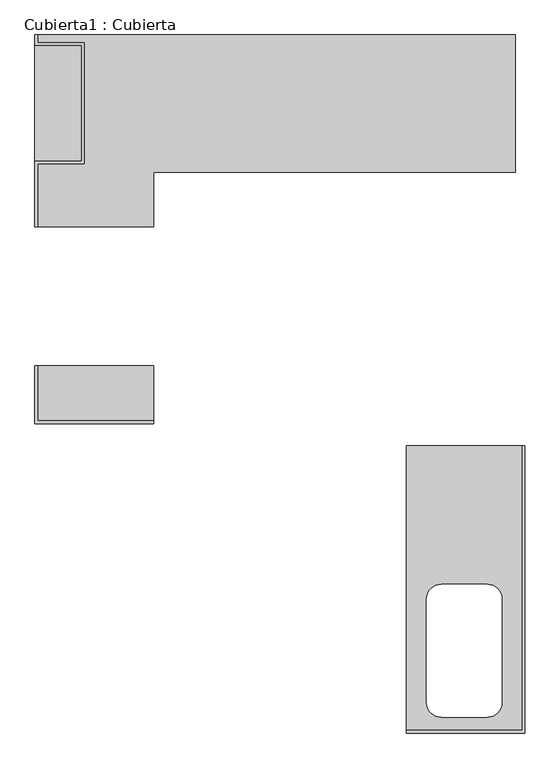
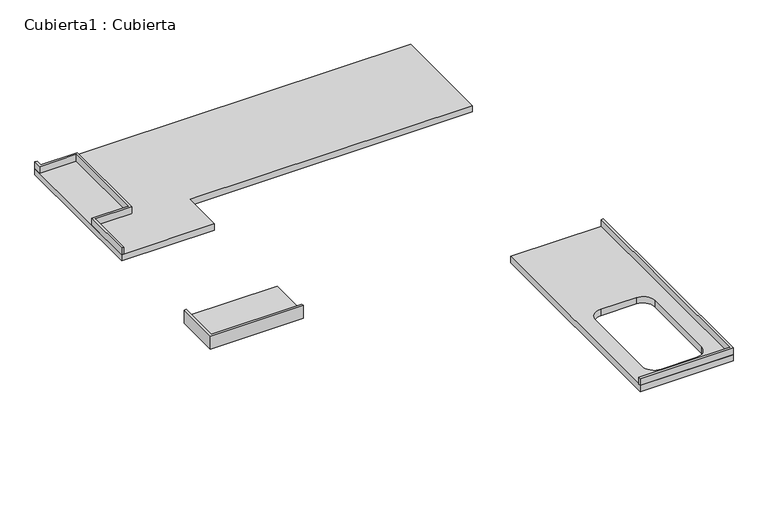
"""IFC4 building model written with IfcOpenShell, lengths in millimetres: furniture geometry, Cubierta1 : Cubierta."""

from ifc_helpers import new_model, si_unit, frame, origin, place, context, project, spatial, polyline, circle_curve, outline, extrude, faceted_brep, source, transform, mapped, element, save
from ifc_brep_helpers import plane_surface, revolved_surface, advanced_brep


def cubierta1_cubierta_86d69f64(model_context):
    return source(origin(), model_context, "Body", "SolidModel", [
        extrude(outline(polyline([(34158.8589874, 30938.9942017), (34143.8589874, 30938.9942017), (34143.8589874, 31298.9733508), (34398.8589874, 31298.9733508), (34398.8589874, 31931.2034346), (34143.8589874, 31931.2034346), (34143.8589874, 31988.9782194), (34158.8589874, 31988.9782194), (34158.8589874, 31946.2034346), (34413.8589874, 31946.2034346), (34413.8589874, 31283.9733508), (34158.8589874, 31283.9733508), (34158.8589874, 30938.9942017)])), frame((0.0, 0.0, 900.0), z_axis=(0.0, 0.0, 1.0), x_axis=(1.0, 0.0, 0.0)), (0.0, 0.0, 1.0), 50.0),
        extrude(outline(polyline([(36810.8300226, 29744.010184), (36825.8300226, 29744.010184), (36825.8300226, 28172.0432167), (36175.8300226, 28172.0432167), (36175.8300226, 28187.0432167), (36810.8300226, 28187.0432167), (36810.8300226, 29744.010184)])), frame((0.0, 0.0, 900.0), z_axis=(0.0, 0.0, 1.0), x_axis=(1.0, 0.0, 0.0)), (0.0, 0.0, 1.0), 50.0),
        faceted_brep([(34143.8589874, 31988.9782194, 900.0), (34143.8589874, 30938.9942017, 900.0), (34793.8589874, 30938.9942017, 900.0), (34793.8589874, 31238.9782194, 900.0), (36772.5589874, 31238.9782194, 900.0), (36772.5589874, 31988.9782194, 900.0), (34143.8589874, 31988.9782194, 853.6007846), (36772.5589874, 31988.9782194, 853.6007846), (36772.5589874, 31238.9782194, 853.6007846), (34793.8589874, 31238.9782194, 853.6007846), (34793.8589874, 30938.9942017, 853.6007846), (34143.8589874, 30938.9942017, 853.6007846)], [[[0, 1, 2, 3, 4, 5]], [[6, 7, 8, 9, 10, 11]], [[1, 0, 6, 11]], [[5, 4, 8, 7]], [[0, 5, 7, 6]], [[4, 3, 9, 8]], [[3, 2, 10, 9]], [[2, 1, 11, 10]]]),
        advanced_brep(
        [(36825.8300226, 29744.010184, 900.0), (36175.8300226, 29744.010184, 900.0), (36175.8300226, 28172.0432167, 900.0), (36825.8300226, 28172.0432167, 900.0), (36287.3300226, 28904.5432167, 900.0), (36368.3300226, 28985.5432167, 900.0), (36618.3300226, 28985.5432167, 900.0), (36699.3300226, 28904.5432167, 900.0), (36699.3300226, 28339.5432167, 900.0), (36618.3300226, 28258.5432167, 900.0), (36368.3300226, 28258.5432167, 900.0), (36287.3300226, 28339.5432167, 900.0), (36825.8300226, 29744.010184, 853.6007846), (36825.8300226, 28172.0432167, 853.6007846), (36175.8300226, 28172.0432167, 853.6007846), (36175.8300226, 29744.010184, 853.6007846), (36287.3300226, 28904.5432167, 853.6007846), (36287.3300226, 28339.5432167, 853.6007846), (36368.3300226, 28258.5432167, 853.6007846), (36618.3300226, 28258.5432167, 853.6007846), (36699.3300226, 28339.5432167, 853.6007846), (36699.3300226, 28904.5432167, 853.6007846), (36618.3300226, 28985.5432167, 853.6007846), (36368.3300226, 28985.5432167, 853.6007846)],
        [
            (0, 1),
            (1, 2),
            (2, 3),
            (3, 0),
            (4, 5, circle_curve(frame((36368.3300226, 28904.5432167, 900.0), z_axis=(0.0, 0.0, -1.0), x_axis=(0.0, -1.0, 0.0)), 81.0)),
            (5, 6),
            (6, 7, circle_curve(frame((36618.3300226, 28904.5432167, 900.0), z_axis=(0.0, 0.0, -1.0), x_axis=(0.0, -1.0, 0.0)), 81.0)),
            (7, 8),
            (8, 9, circle_curve(frame((36618.3300226, 28339.5432167, 900.0), z_axis=(0.0, 0.0, -1.0), x_axis=(0.0, -1.0, 0.0)), 81.0)),
            (9, 10),
            (10, 11, circle_curve(frame((36368.3300226, 28339.5432167, 900.0), z_axis=(0.0, 0.0, -1.0), x_axis=(0.0, -1.0, 0.0)), 81.0)),
            (11, 4),
            (12, 13),
            (13, 14),
            (14, 15),
            (15, 12),
            (16, 17),
            (17, 18, circle_curve(frame((36368.3300226, 28339.5432167, 853.6007846), z_axis=(0.0, 0.0, 1.0), x_axis=(0.0, -1.0, 0.0)), 81.0)),
            (18, 19),
            (19, 20, circle_curve(frame((36618.3300226, 28339.5432167, 853.6007846), z_axis=(0.0, 0.0, 1.0), x_axis=(0.0, -1.0, 0.0)), 81.0)),
            (20, 21),
            (21, 22, circle_curve(frame((36618.3300226, 28904.5432167, 853.6007846), z_axis=(0.0, 0.0, 1.0), x_axis=(0.0, -1.0, 0.0)), 81.0)),
            (22, 23),
            (23, 16, circle_curve(frame((36368.3300226, 28904.5432167, 853.6007846), z_axis=(0.0, 0.0, 1.0), x_axis=(0.0, -1.0, 0.0)), 81.0)),
            (0, 12),
            (15, 1),
            (14, 2),
            (13, 3),
            (4, 16),
            (23, 5),
            (22, 6),
            (21, 7),
            (20, 8),
            (19, 9),
            (18, 10),
            (17, 11),
        ],
        [
            plane_surface(frame((34143.8589874, 30102.4985736, 900.0), z_axis=(0.0, 0.0, 1.0), x_axis=(0.0, -1.0, 0.0))),
            plane_surface(frame((34143.8589874, 30102.4985736, 853.6007846), z_axis=(0.0, 0.0, -1.0), x_axis=(0.0, 1.0, 0.0))),
            plane_surface(frame((36825.8300226, 29744.010184, 900.0), z_axis=(0.0, 1.0, 0.0), x_axis=(0.0, 0.0, -1.0))),
            plane_surface(frame((36175.8300226, 29744.010184, 900.0), z_axis=(-1.0, 0.0, 0.0), x_axis=(0.0, 0.0, -1.0))),
            plane_surface(frame((36175.8300226, 28172.0432167, 900.0), z_axis=(0.0, -1.0, 0.0), x_axis=(0.0, 0.0, -1.0))),
            plane_surface(frame((36825.8300226, 28172.0432167, 900.0), z_axis=(1.0, 0.0, 0.0), x_axis=(0.0, 0.0, -1.0))),
            revolved_surface(polyline([(36368.3300226, 28823.5432167, 853.6007846), (36368.3300226, 28823.5432167, 900.0)]), (36368.3300226, 28904.5432167, 0.0), (0.0, 0.0, -1.0)),
            plane_surface(frame((36368.3300226, 28985.5432167, 900.0), z_axis=(0.0, -1.0, 0.0), x_axis=(0.0, 0.0, -1.0))),
            revolved_surface(polyline([(36618.3300226, 28823.5432167, 853.6007846), (36618.3300226, 28823.5432167, 900.0)]), (36618.3300226, 28904.5432167, 0.0), (0.0, 0.0, -1.0)),
            plane_surface(frame((36699.3300226, 28904.5432167, 900.0), z_axis=(-1.0, 0.0, 0.0), x_axis=(0.0, 0.0, -1.0))),
            revolved_surface(polyline([(36618.3300226, 28258.5432167, 853.6007846), (36618.3300226, 28258.5432167, 900.0)]), (36618.3300226, 28339.5432167, 0.0), (0.0, 0.0, -1.0)),
            plane_surface(frame((36618.3300226, 28258.5432167, 900.0), z_axis=(0.0, 1.0, 0.0), x_axis=(0.0, 0.0, -1.0))),
            revolved_surface(polyline([(36368.3300226, 28258.5432167, 853.6007846), (36368.3300226, 28258.5432167, 900.0)]), (36368.3300226, 28339.5432167, 0.0), (0.0, 0.0, -1.0)),
            plane_surface(frame((36287.3300226, 28339.5432167, 900.0), z_axis=(1.0, 0.0, 0.0), x_axis=(0.0, 0.0, -1.0))),
        ],
        [
            (0, [[1, 2, 3, 4], [5, 6, 7, 8, 9, 10, 11, 12]]),
            (1, [[13, 14, 15, 16], [17, 18, 19, 20, 21, 22, 23, 24]]),
            (2, [[-1, 25, -16, 26]]),
            (3, [[-2, -26, -15, 27]]),
            (4, [[-3, -27, -14, 28]]),
            (5, [[-4, -28, -13, -25]]),
            (6, [[-5, 29, -24, 30]]),
            (7, [[-6, -30, -23, 31]]),
            (8, [[-7, -31, -22, 32]]),
            (9, [[-8, -32, -21, 33]]),
            (10, [[-9, -33, -20, 34]]),
            (11, [[-10, -34, -19, 35]]),
            (12, [[-11, -35, -18, 36]]),
            (13, [[-12, -36, -17, -29]]),
        ],
    ),
        faceted_brep([(34793.8589874, 30178.9424286, 900.0), (34158.8589874, 30178.9424286, 900.0), (34158.8589874, 29879.010184, 900.0), (34793.8589874, 29879.010184, 900.0), (34143.8589874, 29864.010184, 853.6007846), (34143.8589874, 30178.9424286, 853.6007846), (34793.8589874, 30178.9424286, 853.6007846), (34793.8589874, 29864.010184, 853.6007846), (34143.8589874, 30178.9424286, 950.0), (34158.8589874, 30178.9424286, 950.0), (34158.8589874, 29879.010184, 950.0), (34793.8589874, 29879.010184, 950.0), (34793.8589874, 29864.010184, 950.0), (34143.8589874, 29864.010184, 950.0)], [[[0, 1, 2, 3]], [[4, 5, 6, 7]], [[8, 9, 1, 0, 6, 5]], [[2, 10, 11, 3]], [[4, 7, 12, 13]], [[3, 11, 12, 7, 6, 0]], [[1, 9, 10, 2]], [[8, 5, 4, 13]], [[9, 8, 13, 12, 11, 10]]]),
    ])


if __name__ == "__main__":
    model = new_model("IFC4")
    model_context = context("Model", 3, world=origin())
    ifc_project = project(units=[si_unit("LENGTHUNIT", "METRE", prefix="MILLI")], contexts=[model_context])
    site = spatial("IfcSite", under=ifc_project)
    building = spatial("IfcBuilding", under=site)
    placement = place(None, origin())
    cubierta1_cubierta_shape = cubierta1_cubierta_86d69f64(model_context)
    element("IfcFurniture", 1, ObjectType="Cubierta1 : Cubierta", at=placement, inside=building, context=model_context, shape_type="MappedRepresentation", body=[
        mapped(cubierta1_cubierta_shape, transform((0.0, 0.0, 0.0), x_axis=(1.0, 0.0, 0.0), y_axis=(0.0, 1.0, 0.0), z_axis=(0.0, 0.0, 1.0))),
    ])
    save(model, "model.ifc")
